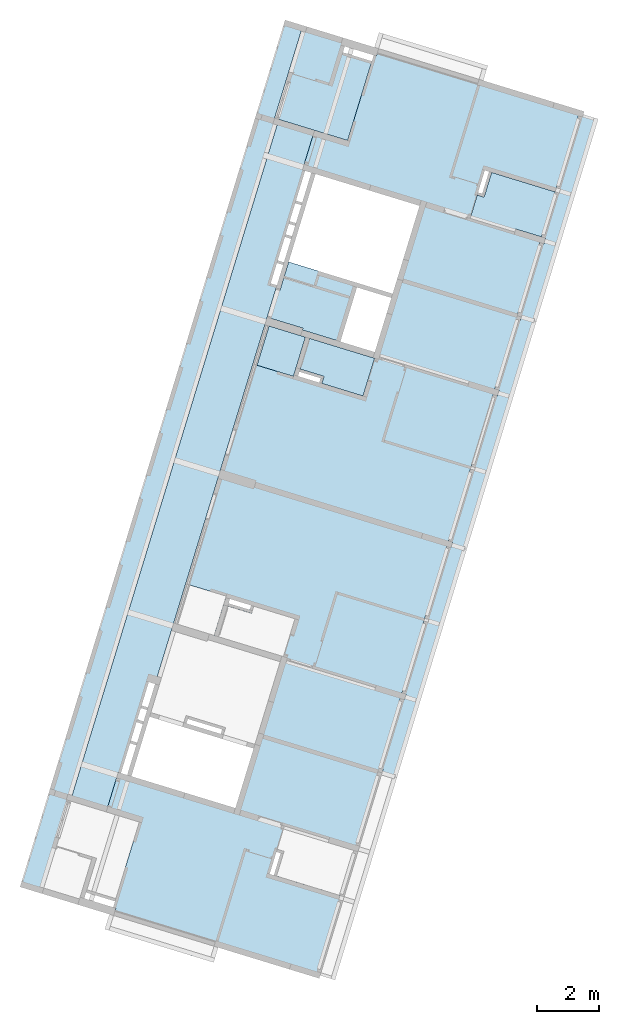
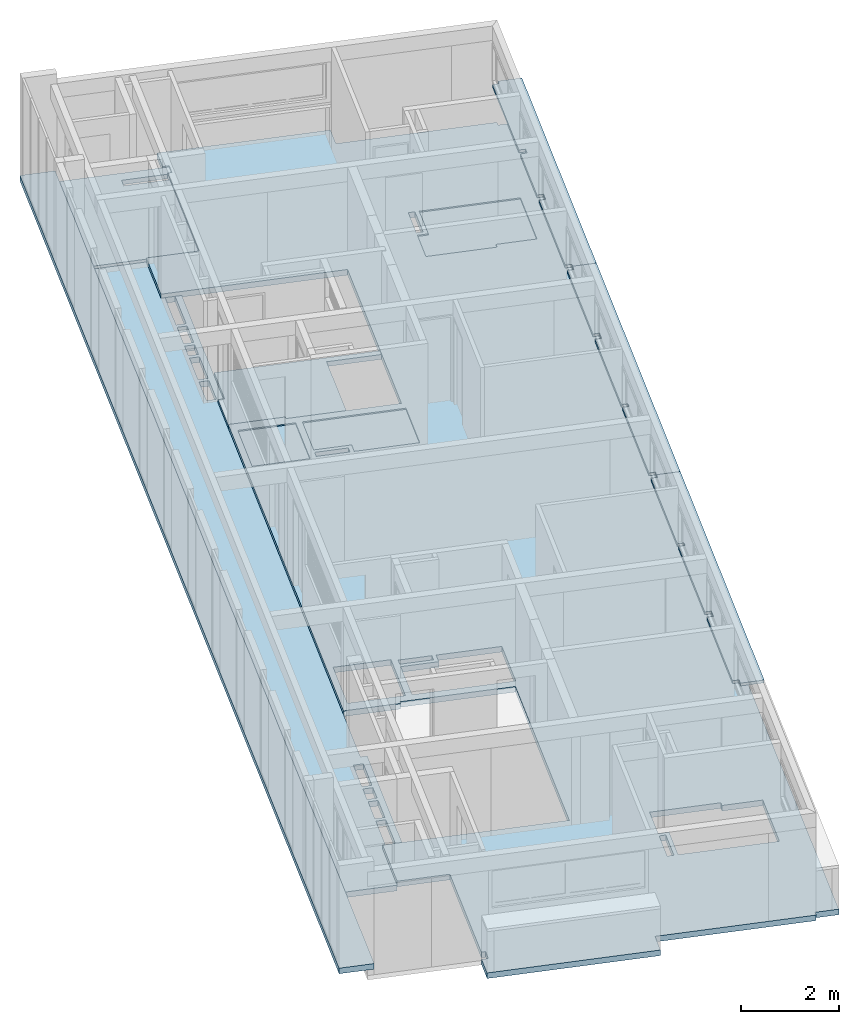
# One storey, part 6 of 18: 11 slabs.
"""IFC2X3 building model written with IfcOpenShell, lengths in millimetres."""

from ifc_helpers import new_model, entity, si_unit, converted_unit, derived_unit, money_unit, direction, frame, origin_with_axes, place, context, subcontext, project, spatial, faceted_brep, material, type_object, element, save


model = new_model("IFC2X3")

# Units and contexts
model_context = context("Model", 3, precision=0.01, world=origin_with_axes(), true_north=direction((0.0, 1.0)))
body_context = subcontext(model_context, "Body", "Model", "MODEL_VIEW")
ifc_project = project(units=[si_unit("LENGTHUNIT", "METRE", prefix="MILLI"), si_unit("AREAUNIT", "SQUARE_METRE"), si_unit("VOLUMEUNIT", "CUBIC_METRE"), converted_unit("PLANEANGLEUNIT", "DEGREE", entity("IfcPlaneAngleMeasure", 0.0174532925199), si_unit("PLANEANGLEUNIT", "RADIAN"), dimensions=[0, 0, 0, 0, 0, 0, 0]), money_unit("USD"), converted_unit("TIMEUNIT", "Year", entity("IfcTimeMeasure", 31556926.0), si_unit("TIMEUNIT", "SECOND"), dimensions=[0, 0, 1, 0, 0, 0, 0]), si_unit("MASSUNIT", "GRAM", prefix="KILO"), si_unit("THERMODYNAMICTEMPERATUREUNIT", "DEGREE_CELSIUS"), si_unit("LUMINOUSINTENSITYUNIT", "LUMEN"), si_unit("ENERGYUNIT", "JOULE", prefix="MEGA"), derived_unit("THERMALCONDUCTANCEUNIT", [(si_unit("POWERUNIT", "WATT"), 1), (si_unit("LENGTHUNIT", "METRE"), -1), (si_unit("THERMODYNAMICTEMPERATUREUNIT", "KELVIN"), -1)]), derived_unit("SPECIFICHEATCAPACITYUNIT", [(si_unit("ENERGYUNIT", "JOULE"), 1), (si_unit("MASSUNIT", "GRAM", prefix="KILO"), -1), (si_unit("THERMODYNAMICTEMPERATUREUNIT", "KELVIN"), -1)]), derived_unit("MASSDENSITYUNIT", [(si_unit("MASSUNIT", "GRAM", prefix="KILO"), 1), (si_unit("VOLUMEUNIT", "CUBIC_METRE"), -1)])], contexts=[model_context])

# Site, building, storey
site_placement = place(None, frame((0.0, 0.0, 0.0), z_axis=(0.0, 0.0, 1.0), x_axis=(0.956304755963, -0.292371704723, 0.0)))
site = spatial("IfcSite", under=ifc_project, at=site_placement, Name="Site", CompositionType="ELEMENT")
building_placement = place(site_placement, origin_with_axes())
building = spatial("IfcBuilding", under=site, at=building_placement, Name="Building", CompositionType="ELEMENT")
storey_placement = place(building_placement, origin_with_axes())
storey = spatial("IfcBuildingStorey", under=building, at=storey_placement, Name="Pavimento tipo", CompositionType="ELEMENT", Elevation=0.0)

# Slabs
ifc_material = material(Name="Concreto - Estrutural")
slab_type_1 = type_object("IfcSlabType", Name="Concreto - Estrutural 140", PredefinedType="FLOOR")
slab_1_placement = place(storey_placement, frame((1341.70783591, 25979.9942843, 0.0), z_axis=(0.0, 0.0, 1.0), x_axis=(1.0, 0.0, 0.0)))
element("IfcSlab", 1, at=slab_1_placement, inside=storey, type_object=slab_type_1, material=ifc_material, Name="Laje 01", PredefinedType="FLOOR", context=body_context, shape_type="Brep", body=[
    faceted_brep([(1200.00387948, -25980.00425, 0.0), (1200.00387948, -25980.00425, -30.0), (1060.0028781, -25980.00425, -30.0), (1060.0028781, -25980.00425, 0.0), (1200.00387948, -25979.9924523, -30.0), (1200.00399551, -25979.9924523, 0.0), (1060.0028781, -25979.9924523, -30.0), (1060.0028781, -25979.9924523, -140.0), (1060.0028781, -26480.0248194, -140.0), (1060.0028781, -26480.0248194, 0.0), (1110.00336073, -22869.9920795, 0.0), (1110.00336504, -25730.0042382, 0.0), (1200.00387948, -25730.0041965, 0.0), (4710.00304173, -26480.0740488, 0.0), (4710.00978549, -25980.0042396, 0.0), (8100.00593805, -25980.0042338, 0.0), (8100.00531845, -25880.00425, 0.0), (8600.00561244, -25880.00425, 0.0), (8600.00561244, 3009.99575001, 0.0), (8100.00433625, 3009.99575001, 0.0), (8100.00433527, 3109.99575001, 0.0), (4710.01006763, 3109.99586538, 0.0), (4710.00331197, 3609.99698778, 0.0), (1060.00314715, 3609.99698778, 0.0), (1060.00314715, 3109.99575002, 0.0), (1200.00561241, 3109.99575002, 0.0), (1200.00561244, 2859.99575001, 0.0), (1110.00383976, 2859.9957538, 0.0), (1110.0037699, 0.00199108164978, 0.0), (0.0, 0.0, 0.0), (0.00314439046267, -1330.00425633, 0.0), (3930.00353569, -1330.00511428, 0.0), (3930.00313774, -6240.00424999, 0.0), (1500.00314694, -6240.00424999, 0.0), (1500.00314694, -6180.00424999, 0.0), (300.003146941, -6180.00424999, 0.0), (300.002877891, -16689.9943158, 0.0), (1500.00287789, -16689.9943158, 0.0), (1500.00289202, -16629.9942625, 0.0), (3930.00293955, -16629.9943484, 0.0), (3930.00328045, -21539.9923498, 0.0), (0.00287532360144, -21539.9943467, 0.0), (0.00256143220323, -22869.9901158, 0.0), (5740.0044151, 369.995750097, 0.0), (5740.0044151, -370.004249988, 0.0), (5600.00399942, -370.004249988, 0.0), (5600.00399942, 369.995750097, 0.0), (7100.00307834, -1240.00424793, 0.0), (5600.0035023, -1239.99631629, 0.0), (5600.00452189, -460.004249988, 0.0), (5830.00441507, -460.004249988, 0.0), (5830.00441507, 369.995756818, 0.0), (7960.00509178, 369.995825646, 0.0), (7960.00561244, -1140.00424999, 0.0), (7100.00307837, -1139.99621635, 0.0), (5830.00414604, -23239.4813883, 0.0), (5830.00414604, -22409.9923505, 0.0), (5600.00367895, -22409.9923505, 0.0), (5600.00323325, -21629.9922905, 0.0), (7100.00276762, -21629.9923593, 0.0), (7100.00280932, -21729.9923904, 0.0), (7960.06010953, -21729.9923935, 0.0), (7960.03974987, -23239.5101172, 0.0), (5600.00415292, -23239.4782862, 0.0), (5600.00373037, -22499.9923505, 0.0), (5740.00414604, -22499.9923505, 0.0), (5740.00414604, -23239.4801744, 0.0), (2600.00561201, -7697.16573716, 0.0), (2600.00569728, -7459.994291, 0.0), (1800.00561244, -7459.994291, 0.0), (1800.00561244, -6429.66323199, 0.0), (3980.00561188, -6430.00446917, 0.0), (3980.0021965, -7697.16623331, 0.0), (2510.00560794, -7697.1657048, 0.0), (1800.00561244, -7697.16544953, 0.0), (1800.00561244, -7549.994291, 0.0), (2510.00566085, -7549.994291, 0.0), (1798.29430476, -15322.8232082, 0.0), (1798.29430476, -15172.8231579, 0.0), (2508.2941933, -15172.8229026, 0.0), (2508.29424723, -15322.8232082, 0.0), (3980.00288569, -16439.9943024, 0.0), (1798.29430476, -16439.9943158, 0.0), (1798.29430476, -15412.8232082, 0.0), (2598.29427959, -15412.8232082, 0.0), (2598.2941933, -15172.8228702, 0.0), (3980.00192745, -15172.8223735, 0.0), (1660.00561244, -7747.16539858, 0.0), (440.003146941, -7747.16539858, 0.0), (440.00561205, -6429.99425692, 0.0), (1658.29447309, -6430.00424999, 0.0), (1658.29430476, -16439.9943158, 0.0), (440.002864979, -16439.9738198, 0.0), (440.002877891, -15122.8232082, 0.0), (1658.29430476, -15122.8232082, 0.0), (1200.00387948, -25730.0041965, -140.0), (1200.00399551, -25979.9924523, -140.0), (1110.00336504, -25730.0042382, -140.0), (1110.00336073, -22869.9920795, -140.0), (0.00256143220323, -22869.9901158, -140.0), (0.00287532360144, -21539.9943467, -140.0), (3930.00328045, -21539.9923498, -140.0), (3930.00293955, -16629.9943484, -140.0), (1500.00289202, -16629.9942625, -140.0), (1500.00287789, -16689.9943158, -140.0), (300.002877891, -16689.9943158, -140.0), (300.003146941, -6180.00424999, -140.0), (1500.00314694, -6180.00424999, -140.0), (1500.00314694, -6240.00424999, -140.0), (3930.00313774, -6240.00424999, -140.0), (3930.00353569, -1330.00511428, -140.0), (0.00314439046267, -1330.00425633, -140.0), (0.0, 0.0, -140.0), (1110.0037699, 0.00199108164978, -140.0), (1110.00383976, 2859.9957538, -140.0), (1200.00561244, 2859.99575001, -140.0), (1200.00561241, 3109.99575002, -140.0), (1060.00314715, 3109.99575002, -140.0), (1060.00314715, 3609.99698778, -140.0), (4710.00331197, 3609.99698778, -140.0), (4710.01006763, 3109.99586538, -140.0), (8100.00433527, 3109.99575001, -140.0), (8100.00433625, 3009.99575001, -140.0), (8600.00561244, 3009.99575001, -140.0), (8600.00561244, -25880.00425, -140.0), (8100.00531845, -25880.00425, -140.0), (8100.00593805, -25980.0042338, -140.0), (4710.00978549, -25980.0042396, -140.0), (4710.00304173, -26480.0740488, -140.0), (5600.00399942, 369.995750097, -140.0), (5600.00399942, -370.004249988, -140.0), (5740.0044151, -370.004249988, -140.0), (5740.0044151, 369.995750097, -140.0), (5830.00441507, -460.004249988, -140.0), (5600.00452189, -460.004249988, -140.0), (5600.0035023, -1239.99631629, -140.0), (7100.00307834, -1240.00424793, -140.0), (7100.00307837, -1139.99621635, -140.0), (7960.00561244, -1140.00424999, -140.0), (7960.00509178, 369.995825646, -140.0), (5830.00441507, 369.995756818, -140.0), (5600.00323325, -21629.9922905, -140.0), (5600.00367895, -22409.9923505, -140.0), (5830.00414604, -22409.9923505, -140.0), (5830.00414604, -23239.4813883, -140.0), (7960.03974987, -23239.5101172, -140.0), (7960.06010953, -21729.9923935, -140.0), (7100.00280932, -21729.9923904, -140.0), (7100.00276762, -21629.9923593, -140.0), (5740.00414604, -23239.4801744, -140.0), (5740.00414604, -22499.9923505, -140.0), (5600.00373037, -22499.9923505, -140.0), (5600.00415292, -23239.4782862, -140.0), (2510.00566085, -7549.994291, -140.0), (1800.00561244, -7549.994291, -140.0), (1800.00561244, -7697.16544953, -140.0), (2510.00560794, -7697.1657048, -140.0), (1800.00561244, -6429.66323199, -140.0), (1800.00561244, -7459.994291, -140.0), (2600.00569728, -7459.994291, -140.0), (2600.00561201, -7697.16573716, -140.0), (3980.0021965, -7697.16623331, -140.0), (3980.00561188, -6430.00446917, -140.0), (2508.29424723, -15322.8232082, -140.0), (2508.2941933, -15172.8229026, -140.0), (1798.29430476, -15172.8231579, -140.0), (1798.29430476, -15322.8232082, -140.0), (1798.29430476, -15412.8232082, -140.0), (1798.29430476, -16439.9943158, -140.0), (3980.00288569, -16439.9943024, -140.0), (3980.00192745, -15172.8223735, -140.0), (2598.2941933, -15172.8228702, -140.0), (2598.29427959, -15412.8232082, -140.0), (1658.29447309, -6430.00424999, -140.0), (440.00561205, -6429.99425692, -140.0), (440.003146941, -7747.16539858, -140.0), (1660.00561244, -7747.16539858, -140.0), (1658.29430476, -15122.8232082, -140.0), (440.002877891, -15122.8232082, -140.0), (440.002864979, -16439.9738198, -140.0), (1658.29430476, -16439.9943158, -140.0)], [[[0, 1, 2, 3]], [[4, 1, 0, 5]], [[6, 2, 1, 4]], [[6, 7, 8, 9, 3, 2]], [[10, 11, 12, 5, 0, 3, 9, 13, 14, 15, 16, 17, 18, 19, 20, 21, 22, 23, 24, 25, 26, 27, 28, 29, 30, 31, 32, 33, 34, 35, 36, 37, 38, 39, 40, 41, 42], [43, 44, 45, 46], [47, 48, 49, 50, 51, 52, 53, 54], [55, 56, 57, 58, 59, 60, 61, 62], [63, 64, 65, 66], [67, 68, 69, 70, 71, 72], [73, 74, 75, 76], [77, 78, 79, 80], [81, 82, 83, 84, 85, 86], [87, 88, 89, 90], [91, 92, 93, 94]], [[12, 95, 96, 4, 5]], [[4, 96, 7, 6]], [[8, 7, 96, 95, 97, 98, 99, 100, 101, 102, 103, 104, 105, 106, 107, 108, 109, 110, 111, 112, 113, 114, 115, 116, 117, 118, 119, 120, 121, 122, 123, 124, 125, 126, 127, 128], [129, 130, 131, 132], [133, 134, 135, 136, 137, 138, 139, 140], [141, 142, 143, 144, 145, 146, 147, 148], [149, 150, 151, 152], [153, 154, 155, 156], [157, 158, 159, 160, 161, 162], [163, 164, 165, 166], [167, 168, 169, 170, 171, 172], [173, 174, 175, 176], [177, 178, 179, 180]], [[13, 9, 8, 128]], [[98, 97, 11, 10]], [[11, 97, 95, 12]], [[13, 128, 127, 14]], [[15, 14, 127, 126]], [[15, 126, 125, 16]], [[16, 125, 124, 17]], [[18, 17, 124, 123]], [[123, 122, 19, 18]], [[19, 122, 121, 20]], [[121, 120, 21, 20]], [[21, 120, 119, 22]], [[119, 118, 23, 22]], [[23, 118, 117, 24]], [[24, 117, 116, 25]], [[25, 116, 115, 26]], [[26, 115, 114, 27]], [[27, 114, 113, 28]], [[28, 113, 112, 29]], [[29, 112, 111, 30]], [[31, 30, 111, 110]], [[31, 110, 109, 32]], [[109, 108, 33, 32]], [[33, 108, 107, 34]], [[34, 107, 106, 35]], [[106, 105, 36, 35]], [[36, 105, 104, 37]], [[37, 104, 103, 38]], [[39, 38, 103, 102]], [[39, 102, 101, 40]], [[101, 100, 41, 40]], [[41, 100, 99, 42]], [[42, 99, 98, 10]], [[132, 131, 44, 43]], [[44, 131, 130, 45]], [[46, 45, 130, 129]], [[46, 129, 132, 43]], [[47, 136, 135, 48]], [[48, 135, 134, 49]], [[49, 134, 133, 50]], [[51, 50, 133, 140]], [[52, 51, 140, 139]], [[52, 139, 138, 53]], [[138, 137, 54, 53]], [[54, 137, 136, 47]], [[55, 144, 143, 56]], [[56, 143, 142, 57]], [[58, 57, 142, 141]], [[58, 141, 148, 59]], [[59, 148, 147, 60]], [[61, 60, 147, 146]], [[61, 146, 145, 62]], [[145, 144, 55, 62]], [[63, 152, 151, 64]], [[64, 151, 150, 65]], [[65, 150, 149, 66]], [[66, 149, 152, 63]], [[67, 160, 159, 68]], [[68, 159, 158, 69]], [[70, 69, 158, 157]], [[70, 157, 162, 71]], [[71, 162, 161, 72]], [[72, 161, 160, 67]], [[73, 156, 155, 74]], [[74, 155, 154, 75]], [[75, 154, 153, 76]], [[76, 153, 156, 73]], [[77, 166, 165, 78]], [[78, 165, 164, 79]], [[79, 164, 163, 80]], [[80, 163, 166, 77]], [[81, 169, 168, 82]], [[83, 82, 168, 167]], [[83, 167, 172, 84]], [[84, 172, 171, 85]], [[85, 171, 170, 86]], [[86, 170, 169, 81]], [[176, 175, 88, 87]], [[88, 175, 174, 89]], [[90, 89, 174, 173]], [[90, 173, 176, 87]], [[180, 179, 92, 91]], [[92, 179, 178, 93]], [[94, 93, 178, 177]], [[177, 180, 91, 94]]]),
])
slab_2_placement = place(storey_placement, frame((1.71344834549, 3109.99866465, -100.0), z_axis=(0.0, 0.0, 1.0), x_axis=(1.0, 0.0, 0.0)))
element("IfcSlab", 2, at=slab_2_placement, inside=storey, type_object=slab_type_1, material=ifc_material, Name="Laje 10", PredefinedType="FLOOR", context=body_context, shape_type="Brep", body=[
    faceted_brep([(0.0, 0.0, 0.0), (0.0, 0.0, -140.0), (1339.99694899, 0.00184911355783, -140.0), (1339.99694899, 0.00184911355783, 0.0), (0.0, 22869.996841, 0.0), (0.0, 22869.996841, -140.0), (1339.99438756, 22869.994966, -140.0), (1339.99753194, 21539.9993702, -140.0), (1339.9981351, 21539.9027945, -140.0), (1779.99749288, 21539.9027945, -140.0), (1779.99749288, 17674.9993702, -140.0), (1639.99749288, 17674.9993702, -140.0), (1639.99749288, 4640.00326234, -140.0), (1779.99759689, 4640.00326234, -140.0), (1779.99744182, 1330.00324173, -140.0), (1639.99749288, 1330.00324828, -140.0), (1639.99749288, 2330.00326234, -140.0), (1429.99730974, 2330.00326234, -140.0), (1429.99730974, 1330.00325812, -140.0), (1339.99726289, 1330.00326234, -140.0), (1429.997343, 3040.00326234, -140.0), (1429.997343, 2420.00326234, -140.0), (1639.99749288, 2420.00326234, -140.0), (1639.99749288, 3040.00326234, -140.0), (1429.99736502, 3510.00326234, -140.0), (1429.99736502, 3130.00326234, -140.0), (1639.99749288, 3130.00326234, -140.0), (1639.99749288, 3510.00326234, -140.0), (1639.99749288, 4385.00286721, -140.0), (1429.99740601, 4385.00286721, -140.0), (1429.99740601, 3600.00326234, -140.0), (1639.99749288, 3600.00326234, -140.0), (1639.99749288, 21539.8961779, -140.0), (1429.997688, 21539.8961779, -140.0), (1429.997688, 20539.9993702, -140.0), (1639.99749288, 20539.9993702, -140.0), (1639.99749288, 20449.9994051, -140.0), (1429.99779568, 20449.9994051, -140.0), (1429.99779568, 19849.9993702, -140.0), (1639.99749288, 19849.9993702, -140.0), (1429.99787839, 19409.9994051, -140.0), (1639.99749288, 19409.9994051, -140.0), (1639.99749288, 19759.9994051, -140.0), (1429.99800089, 19759.9994051, -140.0), (1639.99749288, 19319.9993702, -140.0), (1429.99787839, 19319.9993702, -140.0), (1429.99800089, 18534.9993702, -140.0), (1639.99749288, 18534.9993702, -140.0), (1429.99812106, 18444.9994051, -140.0), (1429.99812106, 17764.9993702, -140.0), (1639.99749288, 17764.9993702, -140.0), (1639.99749288, 18444.9994051, -140.0), (1339.99726289, 1330.00326234, 0.0), (1429.99730974, 1330.00325812, 0.0), (1429.99730974, 2330.00326234, 0.0), (1639.99749288, 2330.00326234, 0.0), (1639.99749288, 1330.00324828, 0.0), (1779.99744182, 1330.00324173, 0.0), (1779.99759689, 4640.00326234, 0.0), (1639.99749288, 4640.00326234, 0.0), (1639.99749288, 17674.9993702, 0.0), (1779.99749288, 17674.9993702, 0.0), (1779.99749288, 21539.9027945, 0.0), (1339.9981351, 21539.9027945, 0.0), (1339.99753194, 21539.9993702, 0.0), (1339.99438756, 22869.994966, 0.0), (1639.99749288, 2420.00326234, 0.0), (1429.997343, 2420.00326234, 0.0), (1429.997343, 3040.00326234, 0.0), (1639.99749288, 3040.00326234, 0.0), (1639.99749288, 3130.00326234, 0.0), (1429.99736502, 3130.00326234, 0.0), (1429.99736502, 3510.00326234, 0.0), (1639.99749288, 3510.00326234, 0.0), (1429.99740601, 3600.00326234, 0.0), (1429.99740601, 4385.00286721, 0.0), (1639.99749288, 4385.00286721, 0.0), (1639.99749288, 3600.00326234, 0.0), (1429.997688, 20539.9993702, 0.0), (1429.997688, 21539.8961779, 0.0), (1639.99749288, 21539.8961779, 0.0), (1639.99749288, 20539.9993702, 0.0), (1429.99779568, 19849.9993702, 0.0), (1429.99779568, 20449.9994051, 0.0), (1639.99749288, 20449.9994051, 0.0), (1639.99749288, 19849.9993702, 0.0), (1639.99749288, 19759.9994051, 0.0), (1639.99749288, 19409.9994051, 0.0), (1429.99787839, 19409.9994051, 0.0), (1429.99800089, 19759.9994051, 0.0), (1429.99800089, 18534.9993702, 0.0), (1429.99787839, 19319.9993702, 0.0), (1639.99749288, 19319.9993702, 0.0), (1639.99749288, 18534.9993702, 0.0), (1639.99749288, 17764.9993702, 0.0), (1429.99812106, 17764.9993702, 0.0), (1429.99812106, 18444.9994051, 0.0), (1639.99749288, 18444.9994051, 0.0)], [[[0, 1, 2, 3]], [[4, 5, 1, 0]], [[2, 1, 5, 6, 7, 8, 9, 10, 11, 12, 13, 14, 15, 16, 17, 18, 19], [20, 21, 22, 23], [24, 25, 26, 27], [28, 29, 30, 31], [32, 33, 34, 35], [36, 37, 38, 39], [40, 41, 42, 43], [44, 45, 46, 47], [48, 49, 50, 51]], [[3, 2, 19, 52]], [[4, 0, 3, 52, 53, 54, 55, 56, 57, 58, 59, 60, 61, 62, 63, 64, 65], [66, 67, 68, 69], [70, 71, 72, 73], [74, 75, 76, 77], [78, 79, 80, 81], [82, 83, 84, 85], [86, 87, 88, 89], [90, 91, 92, 93], [94, 95, 96, 97]], [[65, 6, 5, 4]], [[64, 7, 6, 65]], [[63, 8, 7, 64]], [[62, 9, 8, 63]], [[61, 10, 9, 62]], [[60, 11, 10, 61]], [[59, 12, 11, 60]], [[58, 13, 12, 59]], [[57, 14, 13, 58]], [[56, 15, 14, 57]], [[55, 16, 15, 56]], [[54, 17, 16, 55]], [[53, 18, 17, 54]], [[52, 19, 18, 53]], [[67, 21, 20, 68]], [[66, 22, 21, 67]], [[69, 23, 22, 66]], [[68, 20, 23, 69]], [[71, 25, 24, 72]], [[70, 26, 25, 71]], [[73, 27, 26, 70]], [[72, 24, 27, 73]], [[75, 29, 28, 76]], [[74, 30, 29, 75]], [[77, 31, 30, 74]], [[76, 28, 31, 77]], [[79, 33, 32, 80]], [[78, 34, 33, 79]], [[81, 35, 34, 78]], [[80, 32, 35, 81]], [[83, 37, 36, 84]], [[82, 38, 37, 83]], [[85, 39, 38, 82]], [[84, 36, 39, 85]], [[87, 41, 40, 88]], [[86, 42, 41, 87]], [[89, 43, 42, 86]], [[88, 40, 43, 89]], [[91, 45, 44, 92]], [[90, 46, 45, 91]], [[93, 47, 46, 90]], [[92, 44, 47, 93]], [[95, 49, 48, 96]], [[94, 50, 49, 95]], [[97, 51, 50, 94]], [[96, 48, 51, 97]]]),
])

# Space
space_1_placement = place(storey_placement, frame((1481.71507604, 4250.00139822, 0.0), z_axis=(0.0, 0.0, 1.0), x_axis=(3.39571890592e-07, -1.0, 0.0)))
space_1 = spatial("IfcSpace", under=storey, at=space_1_placement, Name="01", CompositionType="ELEMENT", InteriorOrExteriorSpace="INTERNAL")

# Slabs
slab_3_placement = place(space_1_placement, frame((4250.01065761, -2080.00501295, 250.0), z_axis=(0.0, 0.0, 1.0), x_axis=(3.39571890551e-07, 1.0, 0.0)))
element("IfcSlab", 3, at=slab_3_placement, inside=space_1, type_object=slab_type_1, material=ifc_material, Name="Laje 11", PredefinedType="FLOOR", context=body_context, shape_type="Brep", body=[
    faceted_brep([(0.0, 0.0, 0.0), (0.0, 0.0, -140.0), (740.001942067, 0.0, -140.0), (740.001942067, 0.0, 0.0), (0.0, 29090.0, 0.0), (0.0, 29090.0, -140.0), (740.001942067, 29090.0, -140.0), (740.001942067, 29090.0, 0.0)], [[[0, 1, 2, 3]], [[4, 5, 1, 0]], [[2, 1, 5, 6]], [[3, 2, 6, 7]], [[4, 0, 3, 7]], [[7, 6, 5, 4]]]),
])
slab_type_2 = type_object("IfcSlabType", Name="Concreto - Estrutural 110", PredefinedType="FLOOR")
slab_4_placement = place(storey_placement, frame((1781.71348922, 18232.8288857, -30.0), z_axis=(0.0, 0.0, 1.0), x_axis=(1.0, 0.0, 0.0)))
element("IfcSlab", 4, at=slab_4_placement, inside=storey, type_object=slab_type_2, material=ifc_material, Name="Laje 05", PredefinedType="FLOOR", context=body_context, shape_type="Brep", body=[
    faceted_brep([(0.0, 0.0, 0.0), (0.0, 0.0, -110.0), (1219.99578637, 0.0, -110.0), (1219.99578637, 0.0, 0.0), (-4.16204639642e-05, 1317.16114984, 0.0), (-4.16204639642e-05, 1317.16114984, -110.0), (1219.99568565, 1317.15114279, -110.0), (1219.99568565, 1317.15114279, 0.0)], [[[0, 1, 2, 3]], [[4, 5, 1, 0]], [[2, 1, 5, 6]], [[3, 2, 6, 7]], [[4, 0, 3, 7]], [[7, 6, 5, 4]]]),
])
slab_5_placement = place(storey_placement, frame((6941.71133821, 24739.997968, -30.0), z_axis=(0.0, 0.0, 1.0), x_axis=(1.0, 0.0, 0.0)))
element("IfcSlab", 5, at=slab_5_placement, inside=storey, type_object=slab_type_2, material=ifc_material, Name="Laje 03", PredefinedType="FLOOR", context=body_context, shape_type="Brep", body=[
    faceted_brep([(0.0, 0.0, 0.0), (0.0, 0.0, -110.0), (1499.99957604, -0.0079316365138, -110.0), (1499.99957604, -0.0079316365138, 0.0), (0.00101958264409, 779.992066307, 0.0), (0.00101958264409, 779.992066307, -110.0), (230.000912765, 779.992066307, -110.0), (230.000912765, 1609.99207311, -110.0), (2360.00158947, 1609.99214194, -110.0), (2360.00211013, 99.9920663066, -110.0), (1499.99957604, 99.9920663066, -110.0), (1499.99957604, 99.9920663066, 0.0), (2360.00211013, 99.9920663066, 0.0), (2360.00158947, 1609.99214194, 0.0), (230.000912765, 1609.99207311, 0.0), (230.000912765, 779.992066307, 0.0)], [[[0, 1, 2, 3]], [[4, 5, 1, 0]], [[2, 1, 5, 6, 7, 8, 9, 10]], [[3, 2, 10, 11]], [[4, 0, 3, 11, 12, 13, 14, 15]], [[15, 6, 5, 4]], [[14, 7, 6, 15]], [[13, 8, 7, 14]], [[12, 9, 8, 13]], [[11, 10, 9, 12]]]),
])
slab_6_placement = place(storey_placement, frame((3141.69413518, 19549.9900341, -30.0), z_axis=(0.0, 0.0, 1.0), x_axis=(1.0, 0.0, 0.0)))
element("IfcSlab", 6, at=slab_6_placement, inside=storey, type_object=slab_type_2, material=ifc_material, Name="Laje 04", PredefinedType="FLOOR", context=body_context, shape_type="Brep", body=[
    faceted_brep([(0.0, 0.0, 0.0), (0.0, 0.0, -110.0), (0.0193131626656, -1029.99004082, -110.0), (0.0193131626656, -1029.99004082, 0.0), (2180.01677253, -0.000218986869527, 0.0), (2180.01677253, -0.000218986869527, -110.0), (2180.01589723, -1267.16198313, -110.0), (800.019312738, -1267.16148698, -110.0), (800.019398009, -1029.99004082, -110.0), (800.019398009, -1029.99004082, 0.0), (800.019312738, -1267.16148698, 0.0), (2180.01589723, -1267.16198313, 0.0)], [[[0, 1, 2, 3]], [[4, 5, 1, 0]], [[2, 1, 5, 6, 7, 8]], [[3, 2, 8, 9]], [[4, 0, 3, 9, 10, 11]], [[11, 6, 5, 4]], [[10, 7, 6, 11]], [[9, 8, 7, 10]]]),
])
slab_7_placement = place(storey_placement, frame((1.71344834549, 29089.9999905, -30.0), z_axis=(0.0, 0.0, 1.0), x_axis=(1.0, 0.0, 0.0)))
element("IfcSlab", 7, at=slab_7_placement, inside=storey, type_object=slab_type_2, material=ifc_material, Name="Laje 02", PredefinedType="FLOOR", context=body_context, shape_type="Brep", body=[
    faceted_brep([(0.0, -3110.00754307, 0.0), (0.0, 0.0, 0.0), (0.0, 0.0, -110.0), (0.0, -3110.00754307, -110.0), (2539.99826705, -250.009952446, 0.0), (2539.99826705, 0.0, 0.0), (2449.99815747, -3110.0080524, 0.0), (2449.99815747, -450.000074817, 0.0), (1479.99826499, -450.000074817, 0.0), (1479.99826499, -250.009952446, 0.0), (2539.99826705, 0.0, -110.0), (2449.99815747, -3110.0080524, -110.0), (2539.99826705, -250.009952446, -110.0), (1479.99826499, -250.009952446, -110.0), (1479.99826499, -450.000074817, -110.0), (2449.99815747, -450.000074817, -110.0)], [[[0, 1, 2, 3]], [[4, 5, 1, 0, 6, 7, 8, 9]], [[1, 5, 10, 2]], [[11, 3, 2, 10, 12, 13, 14, 15]], [[6, 0, 3, 11]], [[5, 4, 12, 10]], [[7, 6, 11, 15]], [[8, 7, 15, 14]], [[9, 8, 14, 13]], [[4, 9, 13, 12]]]),
])

# Space
space_2_placement = place(storey_placement, frame((1481.71158317, 24839.9981298, 0.0), z_axis=(0.0, 0.0, 1.0), x_axis=(1.0, -1.55460451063e-08, 0.0)))
space_2 = spatial("IfcSpace", under=storey, at=space_2_placement, Name="04", CompositionType="ELEMENT", InteriorOrExteriorSpace="INTERNAL")

# Slab
slab_type_3 = type_object("IfcSlabType", Name="Concreto - Estrutural 70", PredefinedType="FLOOR")
slab_8_placement = place(space_2_placement, frame((7960.0007216, -2645.01332148, 1100.0), z_axis=(0.0, 0.0, 1.0), x_axis=(1.0, 1.55460451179e-08, 0.0)))
element("IfcSlab", 8, at=slab_8_placement, inside=space_2, type_object=slab_type_3, material=ifc_material, Name="Apt 04 - Laje 13", PredefinedType="FLOOR", context=body_context, shape_type="Brep", body=[
    faceted_brep([(0.0, 0.0, 0.0), (0.0, 0.0, -70.0), (500.001184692, 0.0, -70.0), (500.001184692, 0.0, 0.0), (0.000841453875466, 70.0145649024, 0.0), (0.000841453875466, 70.0145649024, -70.0), (-139.998824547, 70.0145473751, -70.0), (-139.999123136, 2455.00533222, -70.0), (0.000876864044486, 2455.00534975, -70.0), (0.000853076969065, 2645.00534975, -70.0), (-139.999146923, 2645.00533222, -70.0), (-139.999335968, 4155.00542538, -70.0), (0.000664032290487, 4155.00544291, -70.0), (0.000646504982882, 4295.00534975, -70.0), (-139.999353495, 4295.00533222, -70.0), (-139.999655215, 6705.00533222, -70.0), (0.000344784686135, 6705.00534975, -70.0), (-4.54148292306e-05, 6794.99998166, -70.0), (500.001184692, 6794.99998166, -70.0), (500.001184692, 6794.99998166, 0.0), (-4.54148292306e-05, 6794.99998166, 0.0), (0.000344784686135, 6705.00534975, 0.0), (-139.999655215, 6705.00533222, 0.0), (-139.999353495, 4295.00533222, 0.0), (0.000646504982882, 4295.00534975, 0.0), (0.000664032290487, 4155.00544291, 0.0), (-139.999335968, 4155.00542538, 0.0), (-139.999146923, 2645.00533222, 0.0), (0.000853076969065, 2645.00534975, 0.0), (0.000876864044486, 2455.00534975, 0.0), (-139.999123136, 2455.00533222, 0.0), (-139.998824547, 70.0145473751, 0.0)], [[[0, 1, 2, 3]], [[4, 5, 1, 0]], [[2, 1, 5, 6, 7, 8, 9, 10, 11, 12, 13, 14, 15, 16, 17, 18]], [[3, 2, 18, 19]], [[4, 0, 3, 19, 20, 21, 22, 23, 24, 25, 26, 27, 28, 29, 30, 31]], [[31, 6, 5, 4]], [[30, 7, 6, 31]], [[29, 8, 7, 30]], [[28, 9, 8, 29]], [[27, 10, 9, 28]], [[26, 11, 10, 27]], [[25, 12, 11, 26]], [[24, 13, 12, 25]], [[23, 14, 13, 24]], [[22, 15, 14, 23]], [[21, 16, 15, 22]], [[20, 17, 16, 21]], [[19, 18, 17, 20]]]),
])

# Space
space_3_placement = place(storey_placement, frame((2841.71096673, 14639.9999947, 0.0), z_axis=(0.0, 0.0, 1.0), x_axis=(1.0, 1.43937078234e-07, 0.0)))
space_3 = spatial("IfcSpace", under=storey, at=space_3_placement, Name="03", CompositionType="ELEMENT", InteriorOrExteriorSpace="INTERNAL")

# Slab
slab_9_placement = place(space_3_placement, frame((6599.99100769, -95.0109103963, 1100.0), z_axis=(0.0, 0.0, 1.0), x_axis=(1.0, -1.43937078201e-07, 0.0)))
element("IfcSlab", 9, at=slab_9_placement, inside=space_3, type_object=slab_type_3, material=ifc_material, Name="Apt 03 - Laje 14", PredefinedType="FLOOR", context=body_context, shape_type="Brep", body=[
    faceted_brep([(0.00114167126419, 95.0000000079, 0.0), (0.0114602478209, 95.0000000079, 0.0), (0.0114602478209, 0.0, 0.0), (500.011460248, 0.0, 0.0), (500.011460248, 7649.99465026, 0.0), (0.0102301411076, 7649.99465026, 0.0), (0.0107504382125, 7529.99463871, 0.0), (-139.989375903, 7529.99462118, 0.0), (-139.989083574, 5195.01007352, 0.0), (0.00899437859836, 5195.01007352, 0.0), (0.00899437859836, 5195.00000001, 0.0), (0.0109402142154, 5005.00000001, 0.0), (-139.989059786, 5004.99998248, 0.0), (-139.988758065, 2594.99649636, 0.0), (0.0112419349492, 2594.99651388, 0.0), (0.0112532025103, 2504.99651388, 0.0), (-139.988746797, 2504.99649636, 0.0), (-139.988445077, 94.9946327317, 0.0), (0.0114602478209, 95.0000000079, -70.0), (0.00114167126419, 95.0000000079, -70.0), (0.0114602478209, 0.0, -70.0), (500.011460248, 0.0, -70.0), (500.011460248, 7649.99465026, -70.0), (0.0102301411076, 7649.99465026, -70.0), (0.0107504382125, 7529.99463871, -70.0), (-139.989375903, 7529.99462118, -70.0), (-139.989083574, 5195.01007352, -70.0), (0.00899437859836, 5195.01007352, -70.0), (0.00899437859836, 5195.00000001, -70.0), (0.0109402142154, 5005.00000001, -70.0), (-139.989059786, 5004.99998248, -70.0), (-139.988758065, 2594.99649636, -70.0), (0.0112419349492, 2594.99651388, -70.0), (0.0112532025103, 2504.99651388, -70.0), (-139.988746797, 2504.99649636, -70.0), (-139.988445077, 94.9946327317, -70.0)], [[[0, 1, 2, 3, 4, 5, 6, 7, 8, 9, 10, 11, 12, 13, 14, 15, 16, 17]], [[18, 1, 0, 19]], [[20, 2, 1, 18]], [[3, 2, 20, 21]], [[4, 3, 21, 22]], [[5, 4, 22, 23]], [[6, 5, 23, 24]], [[7, 6, 24, 25]], [[25, 26, 8, 7]], [[27, 9, 8, 26]], [[28, 10, 9, 27]], [[11, 10, 28, 29]], [[12, 11, 29, 30]], [[13, 12, 30, 31]], [[14, 13, 31, 32]], [[15, 14, 32, 33]], [[16, 15, 33, 34]], [[17, 16, 34, 35]], [[35, 19, 0, 17]], [[20, 18, 19, 35, 34, 33, 32, 31, 30, 29, 28, 27, 26, 25, 24, 23, 22, 21]]]),
])

# Space
space_4_placement = place(storey_placement, frame((2841.71099896, 14449.9999947, 0.0), z_axis=(0.0, 0.0, 1.0), x_axis=(6.32291681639e-07, -1.0, 0.0)))
space_4 = spatial("IfcSpace", under=storey, at=space_4_placement, Name="02", CompositionType="ELEMENT", InteriorOrExteriorSpace="INTERNAL")

# Slabs
slab_10_placement = place(space_4_placement, frame((-95.0057872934, 6599.99104921, 1100.0), z_axis=(0.0, 0.0, 1.0), x_axis=(6.32291681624e-07, 1.0, 0.0)))
element("IfcSlab", 10, at=slab_10_placement, inside=space_4, type_object=slab_type_3, material=ifc_material, Name="Apt 02 - Laje 14", PredefinedType="FLOOR", context=body_context, shape_type="Brep", body=[
    faceted_brep([(500.011460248, 0.0, -70.0), (0.0114602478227, 0.0, -70.0), (0.0114602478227, 0.0, 0.0), (500.011460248, 0.0, 0.0), (-139.98844508, -95.0199208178, -70.0), (0.0114602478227, -95.0199208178, -70.0), (500.011460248, -7649.99465026, -70.0), (0.0102301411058, -7649.99465026, -70.0), (0.0107504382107, -7529.99463871, -70.0), (-139.989375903, -7529.99462118, -70.0), (-139.989083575, -5195.01992082, -70.0), (0.0114602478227, -5195.01992082, -70.0), (0.0114602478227, -5195.00000001, -70.0), (0.0109402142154, -5005.00000001, -70.0), (-139.989059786, -5004.99998248, -70.0), (-139.988758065, -2594.99649636, -70.0), (0.0112419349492, -2594.99651388, -70.0), (0.0112532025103, -2504.99651388, -70.0), (-139.988746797, -2504.99649636, -70.0), (0.0114602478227, -95.0199208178, 0.0), (-139.98844508, -95.0199208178, 0.0), (-139.988746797, -2504.99649636, 0.0), (0.0112532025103, -2504.99651388, 0.0), (0.0112419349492, -2594.99651388, 0.0), (-139.988758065, -2594.99649636, 0.0), (-139.989059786, -5004.99998248, 0.0), (0.0109402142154, -5005.00000001, 0.0), (0.0114602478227, -5195.00000001, 0.0), (0.0114602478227, -5195.01992082, 0.0), (-139.989083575, -5195.01992082, 0.0), (-139.989375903, -7529.99462118, 0.0), (0.0107504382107, -7529.99463871, 0.0), (0.0102301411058, -7649.99465026, 0.0), (500.011460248, -7649.99465026, 0.0)], [[[0, 1, 2, 3]], [[4, 5, 1, 0, 6, 7, 8, 9, 10, 11, 12, 13, 14, 15, 16, 17, 18]], [[5, 19, 2, 1]], [[2, 19, 20, 21, 22, 23, 24, 25, 26, 27, 28, 29, 30, 31, 32, 33, 3]], [[3, 33, 6, 0]], [[4, 20, 19, 5]], [[33, 32, 7, 6]], [[32, 31, 8, 7]], [[31, 30, 9, 8]], [[30, 29, 10, 9]], [[10, 29, 28, 11]], [[11, 28, 27, 12]], [[13, 12, 27, 26]], [[26, 25, 14, 13]], [[25, 24, 15, 14]], [[24, 23, 16, 15]], [[23, 22, 17, 16]], [[22, 21, 18, 17]], [[21, 20, 4, 18]]]),
])
slab_type_4 = type_object("IfcSlabType", Name="Concreto - Estrutural 120", PredefinedType="FLOOR")
slab_11_placement = place(storey_placement, frame((1641.71029932, 19800.4634221, -20.0), z_axis=(0.0, 0.0, 1.0), x_axis=(1.0, 0.0, 0.0)))
element("IfcSlab", 11, at=slab_11_placement, inside=storey, type_object=slab_type_4, material=ifc_material, Name="Laje 16", PredefinedType="FLOOR", context=body_context, shape_type="Brep", body=[
    faceted_brep([(0.0, 0.0, 0.0), (0.0, 0.0, -120.0), (1200.00068353, -0.473387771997, -120.0), (1200.00068353, -0.473387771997, 0.0), (0.000629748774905, 942.035665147, 0.0), (0.000629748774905, 942.035665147, -120.0), (140.001291, 942.035591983, -120.0), (140.001127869, 1899.53657375, -120.0), (3630.00065775, 1899.53657375, -120.0), (3630.00065775, 1759.5365829, -120.0), (2475.00065455, 1759.5365829, -120.0), (2475.00067433, -60.473387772, -120.0), (1200.00068353, -60.473387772, -120.0), (1200.00068353, -60.473387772, 0.0), (2475.00067433, -60.473387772, 0.0), (2475.00065455, 1759.5365829, 0.0), (3630.00065775, 1759.5365829, 0.0), (3630.00065775, 1899.53657375, 0.0), (140.001127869, 1899.53657375, 0.0), (140.001291, 942.035591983, 0.0)], [[[0, 1, 2, 3]], [[4, 5, 1, 0]], [[2, 1, 5, 6, 7, 8, 9, 10, 11, 12]], [[3, 2, 12, 13]], [[4, 0, 3, 13, 14, 15, 16, 17, 18, 19]], [[19, 6, 5, 4]], [[18, 7, 6, 19]], [[17, 8, 7, 18]], [[16, 9, 8, 17]], [[15, 10, 9, 16]], [[14, 11, 10, 15]], [[13, 12, 11, 14]]]),
])

save(model, "model.ifc")
